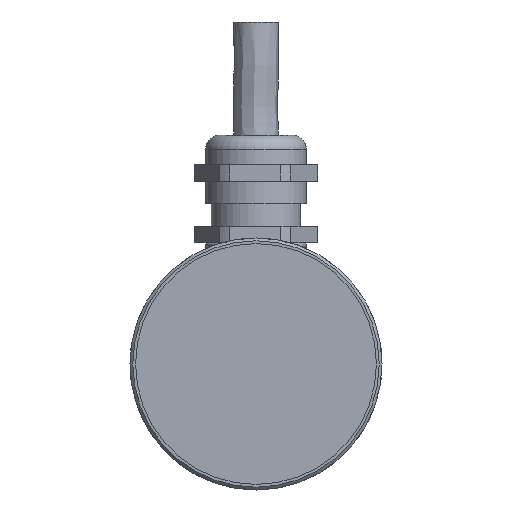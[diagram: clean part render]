
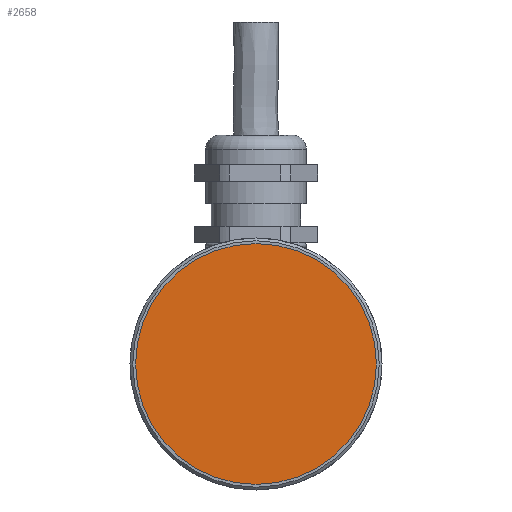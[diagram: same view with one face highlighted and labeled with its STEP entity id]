
A CAD part, left-side view. The second image highlights one B-rep face of the part: STEP entity #2658.
In plain terms, the highlighted planar face has unit normal (-1, 0, 0).
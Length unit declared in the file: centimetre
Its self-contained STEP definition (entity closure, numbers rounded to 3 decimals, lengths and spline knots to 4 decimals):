
#743=CIRCLE('',#2816,2.15);
#922=VERTEX_POINT('',#4053);
#1510=EDGE_CURVE('',#922,#922,#743,.T.);
#1947=ORIENTED_EDGE('',*,*,#1510,.T.);
#2350=EDGE_LOOP('',(#1947));
#2505=FACE_BOUND('',#2350,.T.);
#2658=ADVANCED_FACE('',(#2505),#4634,.T.);
#2816=AXIS2_PLACEMENT_3D('',#4052,#3154,#3155);
#2818=AXIS2_PLACEMENT_3D('',#4056,#3158,$);
#3154=DIRECTION('',(-1.,0.,0.));
#3155=DIRECTION('',(0.,0.,2.15));
#3158=DIRECTION('',(-1.,0.,0.));
#4052=CARTESIAN_POINT('',(0.1,0.,0.));
#4053=CARTESIAN_POINT('',(0.1,0.,2.15));
#4056=CARTESIAN_POINT('',(0.1,0.,0.));
#4634=PLANE('',#2818);
